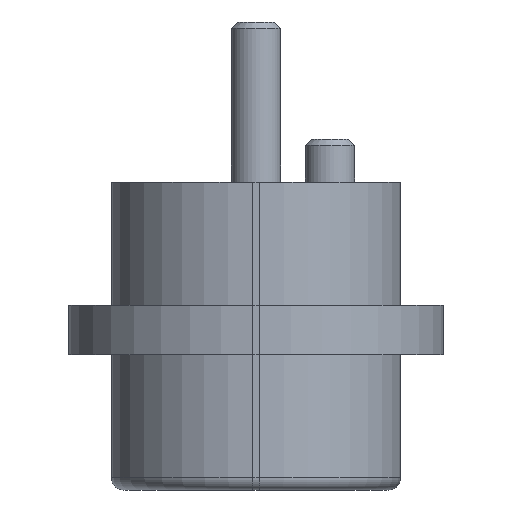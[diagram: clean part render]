
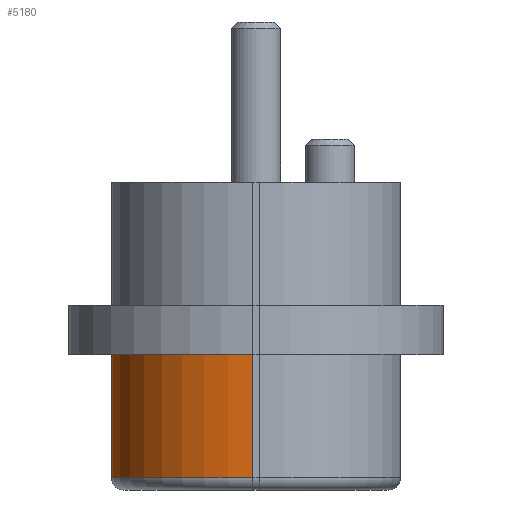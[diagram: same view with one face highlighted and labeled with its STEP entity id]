
A CAD part, front view. The second image highlights one B-rep face of the part: STEP entity #5180.
In plain terms, the highlighted cylindrical face has radius 2.3 mm (diameter 4.6 mm), a partial arc.
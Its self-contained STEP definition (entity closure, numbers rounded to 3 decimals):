
#1343=CARTESIAN_POINT('',(-15.05,-8.825,10.2));
#1344=DIRECTION('',(0.,0.,-1.));
#1345=DIRECTION('',(0.,-1.,0.));
#1346=AXIS2_PLACEMENT_3D('',#1343,#1344,#1345);
#1379=DIRECTION('',(0.,0.,-1.));
#1380=VECTOR('',#1379,2.);
#1381=CARTESIAN_POINT('',(-15.05,-11.125,10.2));
#1382=LINE('',#1381,#1380);
#1383=DIRECTION('',(0.,0.,1.));
#1384=VECTOR('',#1383,2.);
#1385=CARTESIAN_POINT('',(-17.35,-8.825,8.2));
#1386=LINE('',#1385,#1384);
#1429=CARTESIAN_POINT('',(-15.05,-8.825,8.2));
#1430=DIRECTION('',(0.,0.,1.));
#1431=DIRECTION('',(-1.,0.,0.));
#1432=AXIS2_PLACEMENT_3D('',#1429,#1430,#1431);
#3473=CARTESIAN_POINT('',(-17.35,-8.825,8.2));
#3474=VERTEX_POINT('',#3473);
#3477=CARTESIAN_POINT('',(-15.05,-11.125,8.2));
#3478=VERTEX_POINT('',#3477);
#3481=CARTESIAN_POINT('',(-15.05,-11.125,10.2));
#3482=VERTEX_POINT('',#3481);
#3485=CARTESIAN_POINT('',(-17.35,-8.825,10.2));
#3486=VERTEX_POINT('',#3485);
#5166=CARTESIAN_POINT('',(-15.05,-8.825,10.24));
#5167=DIRECTION('',(0.,0.,-1.));
#5168=DIRECTION('',(-1.,0.,0.));
#5169=AXIS2_PLACEMENT_3D('',#5166,#5167,#5168);
#5170=CYLINDRICAL_SURFACE('',#5169,2.3);
#5172=ORIENTED_EDGE('',*,*,#5171,.T.);
#5174=ORIENTED_EDGE('',*,*,#5173,.F.);
#5176=ORIENTED_EDGE('',*,*,#5175,.T.);
#5177=ORIENTED_EDGE('',*,*,#5147,.F.);
#5178=EDGE_LOOP('',(#5172,#5174,#5176,#5177));
#5179=FACE_OUTER_BOUND('',#5178,.F.);
#5180=ADVANCED_FACE('',(#5179),#5170,.T.);
#1347=CIRCLE('',#1346,2.3);
#1433=CIRCLE('',#1432,2.3);
#5147=EDGE_CURVE('',#3482,#3486,#1347,.T.);
#5171=EDGE_CURVE('',#3482,#3478,#1382,.T.);
#5173=EDGE_CURVE('',#3474,#3478,#1433,.T.);
#5175=EDGE_CURVE('',#3474,#3486,#1386,.T.);
